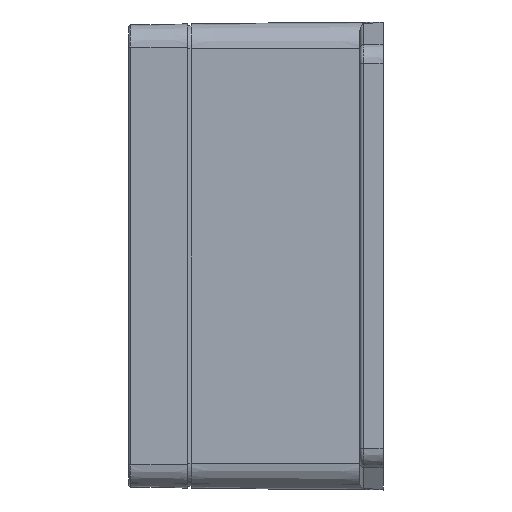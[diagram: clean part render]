
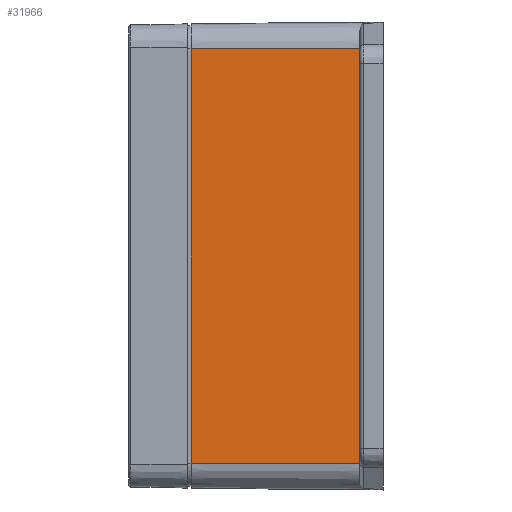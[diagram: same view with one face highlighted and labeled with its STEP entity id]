
A CAD part, left-side view. The second image highlights one B-rep face of the part: STEP entity #31966.
In plain terms, the highlighted planar face has unit normal (-1, 0.009, 0).
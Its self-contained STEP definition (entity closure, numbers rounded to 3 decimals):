
#923 = ORIENTED_EDGE ( 'NONE', *, *, #26877, .T. ) ;
#1149 = FACE_OUTER_BOUND ( 'NONE', #22856, .T. ) ;
#1174 = VERTEX_POINT ( 'NONE', #31821 ) ;
#1494 = VERTEX_POINT ( 'NONE', #34713 ) ;
#2153 = LINE ( 'NONE', #11466, #24640 ) ;
#6137 = DIRECTION ( 'NONE',  ( 0.009, 1., 0. ) ) ;
#7795 = VECTOR ( 'NONE', #6137, 1000. ) ;
#7861 = EDGE_CURVE ( 'NONE', #14553, #1494, #21149, .T. ) ;
#10681 = EDGE_CURVE ( 'NONE', #24626, #1174, #2153, .T. ) ;
#11466 = CARTESIAN_POINT ( 'NONE',  ( -60.05, 0., 53.55 ) ) ;
#11775 = AXIS2_PLACEMENT_3D ( 'NONE', #28836, #37747, #34958 ) ;
#13172 = CARTESIAN_POINT ( 'NONE',  ( -60.439, -44.6, 53.55 ) ) ;
#14056 = DIRECTION ( 'NONE',  ( 0.009, 1., 0. ) ) ;
#14553 = VERTEX_POINT ( 'NONE', #21827 ) ;
#15563 = LINE ( 'NONE', #35931, #21521 ) ;
#17823 = EDGE_CURVE ( 'NONE', #24626, #14553, #19119, .T. ) ;
#19119 = LINE ( 'NONE', #13172, #32635 ) ;
#21149 = LINE ( 'NONE', #27260, #7795 ) ;
#21521 = VECTOR ( 'NONE', #33553, 1000. ) ;
#21827 = CARTESIAN_POINT ( 'NONE',  ( -60.439, -44.6, -53.55 ) ) ;
#22387 = ORIENTED_EDGE ( 'NONE', *, *, #10681, .T. ) ;
#22526 = PLANE ( 'NONE',  #11775 ) ;
#22856 = EDGE_LOOP ( 'NONE', ( #22387, #923, #35646, #30391 ) ) ;
#24626 = VERTEX_POINT ( 'NONE', #31740 ) ;
#24640 = VECTOR ( 'NONE', #14056, 1000. ) ;
#25255 = DIRECTION ( 'NONE',  ( 0., 0., -1. ) ) ;
#26877 = EDGE_CURVE ( 'NONE', #1174, #1494, #15563, .T. ) ;
#27260 = CARTESIAN_POINT ( 'NONE',  ( -60.05, 0., -53.55 ) ) ;
#28836 = CARTESIAN_POINT ( 'NONE',  ( -60.05, 0., 53.55 ) ) ;
#30391 = ORIENTED_EDGE ( 'NONE', *, *, #17823, .F. ) ;
#31740 = CARTESIAN_POINT ( 'NONE',  ( -60.439, -44.6, 53.55 ) ) ;
#31821 = CARTESIAN_POINT ( 'NONE',  ( -60.059, -1., 53.55 ) ) ;
#31966 = ADVANCED_FACE ( 'NONE', ( #1149 ), #22526, .T. ) ;
#32635 = VECTOR ( 'NONE', #25255, 1000. ) ;
#33553 = DIRECTION ( 'NONE',  ( 0., 0., -1. ) ) ;
#34713 = CARTESIAN_POINT ( 'NONE',  ( -60.059, -1., -53.55 ) ) ;
#34958 = DIRECTION ( 'NONE',  ( -0.009, -1., 0. ) ) ;
#35646 = ORIENTED_EDGE ( 'NONE', *, *, #7861, .F. ) ;
#35931 = CARTESIAN_POINT ( 'NONE',  ( -60.059, -1., 53.55 ) ) ;
#37747 = DIRECTION ( 'NONE',  ( -1., 0.009, 0. ) ) ;
